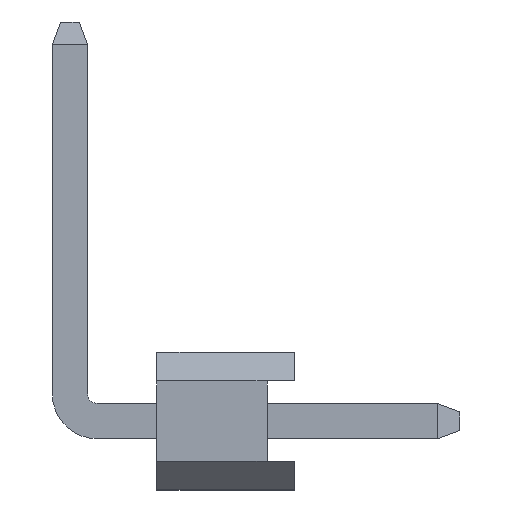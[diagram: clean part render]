
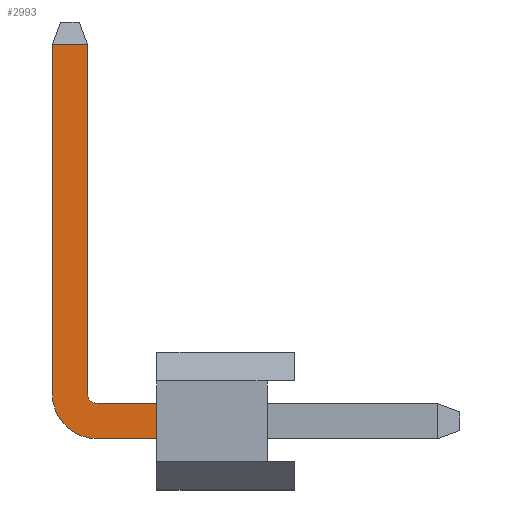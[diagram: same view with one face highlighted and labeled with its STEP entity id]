
A CAD part, left-side view. The second image highlights one B-rep face of the part: STEP entity #2993.
In plain terms, the highlighted planar face has unit normal (-1, 0, 0).
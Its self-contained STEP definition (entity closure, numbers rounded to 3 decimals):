
#152 = VERTEX_POINT ( 'NONE', #3525 ) ;
#217 = CARTESIAN_POINT ( 'NONE',  ( -4.11, 5.9, 5.099 ) ) ;
#218 = CARTESIAN_POINT ( 'NONE',  ( -4.11, 5.9, 4.459 ) ) ;
#246 = VERTEX_POINT ( 'NONE', #4303 ) ;
#315 = DIRECTION ( 'NONE',  ( 0., -1., 0. ) ) ;
#390 = DIRECTION ( 'NONE',  ( 0., 0., 1. ) ) ;
#476 = CARTESIAN_POINT ( 'NONE',  ( -4.11, 3.26, 11.629 ) ) ;
#562 = CARTESIAN_POINT ( 'NONE',  ( -4.11, 2., 4.459 ) ) ;
#576 = DIRECTION ( 'NONE',  ( 0., -1., 0. ) ) ;
#593 = LINE ( 'NONE', #3606, #2795 ) ;
#715 = VERTEX_POINT ( 'NONE', #4147 ) ;
#735 = DIRECTION ( 'NONE',  ( 0., 0., 1. ) ) ;
#770 = CARTESIAN_POINT ( 'NONE',  ( -4.11, 3.08, 5.279 ) ) ;
#948 = PLANE ( 'NONE',  #1098 ) ;
#1093 = VECTOR ( 'NONE', #735, 1000. ) ;
#1098 = AXIS2_PLACEMENT_3D ( 'NONE', #217, #3638, #315 ) ;
#1196 = CARTESIAN_POINT ( 'NONE',  ( -4.11, 3.26, 5.279 ) ) ;
#1248 = CIRCLE ( 'NONE', #4643, 0.82 ) ;
#1296 = CARTESIAN_POINT ( 'NONE',  ( -4.11, 3.26, 5.279 ) ) ;
#1312 = EDGE_CURVE ( 'NONE', #1603, #4588, #4487, .T. ) ;
#1535 = EDGE_CURVE ( 'NONE', #1603, #3347, #593, .T. ) ;
#1541 = LINE ( 'NONE', #2642, #4564 ) ;
#1603 = VERTEX_POINT ( 'NONE', #2297 ) ;
#1619 = DIRECTION ( 'NONE',  ( 0., 0., 1. ) ) ;
#1704 = ORIENTED_EDGE ( 'NONE', *, *, #3143, .F. ) ;
#1822 = ORIENTED_EDGE ( 'NONE', *, *, #1312, .T. ) ;
#1848 = ORIENTED_EDGE ( 'NONE', *, *, #2722, .F. ) ;
#1908 = CARTESIAN_POINT ( 'NONE',  ( -4.11, 2., 5.099 ) ) ;
#2104 = VERTEX_POINT ( 'NONE', #562 ) ;
#2146 = DIRECTION ( 'NONE',  ( 0., -1., 0. ) ) ;
#2297 = CARTESIAN_POINT ( 'NONE',  ( -4.11, 3.08, 5.099 ) ) ;
#2334 = LINE ( 'NONE', #1196, #2398 ) ;
#2398 = VECTOR ( 'NONE', #390, 1000. ) ;
#2422 = CARTESIAN_POINT ( 'NONE',  ( -4.11, 2., 5.099 ) ) ;
#2609 = CARTESIAN_POINT ( 'NONE',  ( -4.11, 3.08, 5.279 ) ) ;
#2642 = CARTESIAN_POINT ( 'NONE',  ( -4.11, 4.74, 11.629 ) ) ;
#2722 = EDGE_CURVE ( 'NONE', #152, #3751, #1541, .T. ) ;
#2795 = VECTOR ( 'NONE', #2146, 1000. ) ;
#2803 = EDGE_CURVE ( 'NONE', #2104, #3347, #3487, .T. ) ;
#2815 = ORIENTED_EDGE ( 'NONE', *, *, #2803, .T. ) ;
#2887 = LINE ( 'NONE', #3594, #4403 ) ;
#2904 = FACE_OUTER_BOUND ( 'NONE', #3056, .T. ) ;
#2907 = ORIENTED_EDGE ( 'NONE', *, *, #1535, .F. ) ;
#2993 = ADVANCED_FACE ( 'NONE', ( #2904 ), #948, .T. ) ;
#3056 = EDGE_LOOP ( 'NONE', ( #2815, #2907, #1822, #4537, #1848, #4274, #1704, #4477 ) ) ;
#3143 = EDGE_CURVE ( 'NONE', #715, #246, #1248, .T. ) ;
#3208 = EDGE_CURVE ( 'NONE', #4588, #3751, #2334, .T. ) ;
#3347 = VERTEX_POINT ( 'NONE', #2422 ) ;
#3487 = LINE ( 'NONE', #1908, #1093 ) ;
#3525 = CARTESIAN_POINT ( 'NONE',  ( -4.11, 3.9, 11.629 ) ) ;
#3594 = CARTESIAN_POINT ( 'NONE',  ( -4.11, 3.9, 5.279 ) ) ;
#3599 = AXIS2_PLACEMENT_3D ( 'NONE', #2609, #4980, #3793 ) ;
#3606 = CARTESIAN_POINT ( 'NONE',  ( -4.11, 5.9, 5.099 ) ) ;
#3638 = DIRECTION ( 'NONE',  ( -1., 0., 0. ) ) ;
#3735 = EDGE_CURVE ( 'NONE', #246, #152, #2887, .T. ) ;
#3751 = VERTEX_POINT ( 'NONE', #476 ) ;
#3793 = DIRECTION ( 'NONE',  ( 0., 0., -1. ) ) ;
#3837 = DIRECTION ( 'NONE',  ( 0., 0., -1. ) ) ;
#3884 = DIRECTION ( 'NONE',  ( 1., 0., 0. ) ) ;
#4147 = CARTESIAN_POINT ( 'NONE',  ( -4.11, 3.08, 4.459 ) ) ;
#4228 = EDGE_CURVE ( 'NONE', #715, #2104, #4496, .T. ) ;
#4274 = ORIENTED_EDGE ( 'NONE', *, *, #3735, .F. ) ;
#4303 = CARTESIAN_POINT ( 'NONE',  ( -4.11, 3.9, 5.279 ) ) ;
#4403 = VECTOR ( 'NONE', #1619, 1000. ) ;
#4477 = ORIENTED_EDGE ( 'NONE', *, *, #4228, .T. ) ;
#4487 = CIRCLE ( 'NONE', #3599, 0.18 ) ;
#4496 = LINE ( 'NONE', #218, #4541 ) ;
#4537 = ORIENTED_EDGE ( 'NONE', *, *, #3208, .T. ) ;
#4541 = VECTOR ( 'NONE', #576, 1000. ) ;
#4564 = VECTOR ( 'NONE', #4989, 1000. ) ;
#4588 = VERTEX_POINT ( 'NONE', #1296 ) ;
#4643 = AXIS2_PLACEMENT_3D ( 'NONE', #770, #3884, #3837 ) ;
#4980 = DIRECTION ( 'NONE',  ( 1., 0., 0. ) ) ;
#4989 = DIRECTION ( 'NONE',  ( 0., -1., 0. ) ) ;
